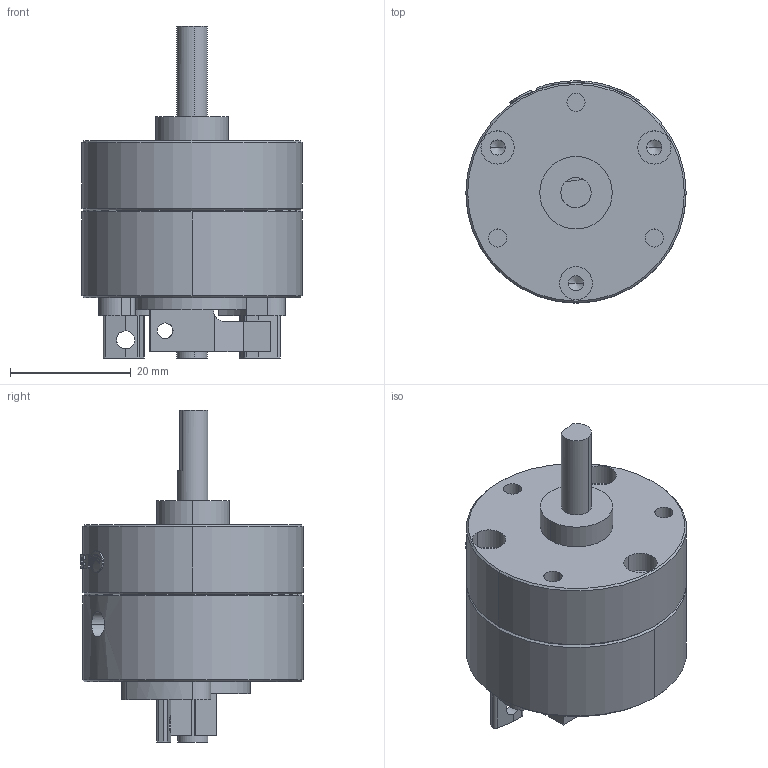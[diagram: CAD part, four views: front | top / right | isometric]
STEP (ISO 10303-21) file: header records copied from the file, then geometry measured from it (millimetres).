
FILE_DESCRIPTION (( 'STEP AP203' ), '1' );
FILE_NAME ('PROA3S-#-#.STEP', '2016-02-04T06:58:20', ( 'Sam Lin' ), ( '' ), 'SwSTEP 2.0', 'SolidWorks 2013', '' );
FILE_SCHEMA (( 'CONFIG_CONTROL_DESIGN' ));
Length unit declared in the file: metre
Products named in the file (8): PROA3S-#-# (4); PROA3S-#-# (5); PROA3S-#-# (1); PROA3S-#-# (2); PROA3S-#-# (3); PROA3S-#-# (6); mark-PROA3S-2; PROA3S-#-#
Assembly tree (7 placements, depth 2):
  PROA3S-#-#
    PROA3S-#-# (4)
    PROA3S-#-# (5)
    PROA3S-#-# (1)
    PROA3S-#-# (2)
    PROA3S-#-# (3)
    PROA3S-#-# (6)
    mark-PROA3S-2
Bounding box: 36.5 x 36.8 x 55 mm (x, y, z)
Volume: 28912.9 mm3; surface area: 11553.5 mm2
Topology: 13 solids, 13 shells, 342 faces, 828 edges, 541 vertices
Faces by surface type: cylinder 156, plane 132, bspline 35, cone 19
Entity records: 13916 total; most frequent: CARTESIAN_POINT 4996, DIRECTION 1717, ORIENTED_EDGE 1636, EDGE_CURVE 818, AXIS2_PLACEMENT_3D 669, VERTEX_POINT 541, EDGE_LOOP 411, LINE 379
